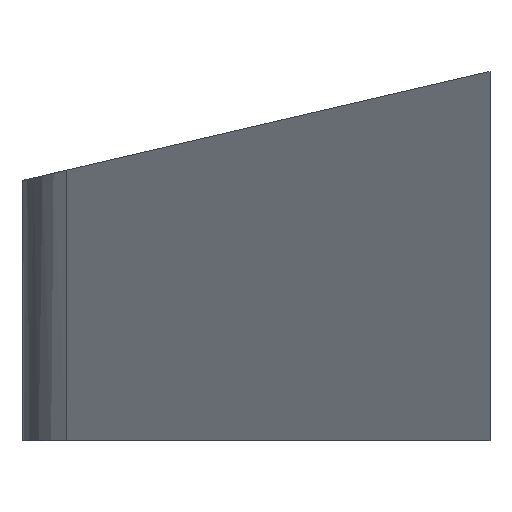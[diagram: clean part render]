
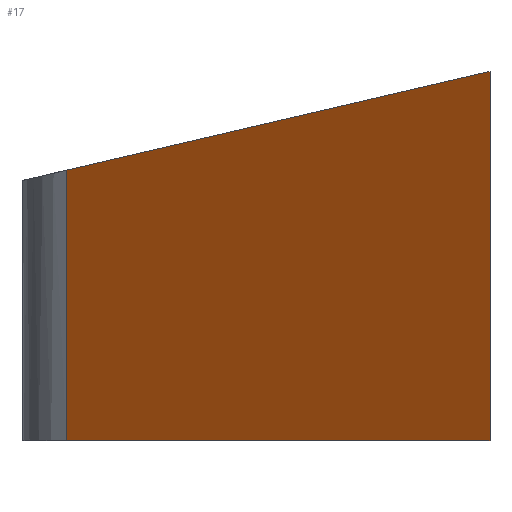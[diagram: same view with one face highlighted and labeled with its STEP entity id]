
A CAD part, front view. The second image highlights one B-rep face of the part: STEP entity #17.
In plain terms, the highlighted planar face has unit normal (-0.643, -0.766, 0).
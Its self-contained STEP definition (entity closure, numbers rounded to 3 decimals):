
#17 = ADVANCED_FACE('',(#18),#32,.F.);
#18 = FACE_BOUND('',#19,.F.);
#19 = EDGE_LOOP('',(#20,#55,#83,#109));
#20 = ORIENTED_EDGE('',*,*,#21,.F.);
#21 = EDGE_CURVE('',#22,#24,#26,.T.);
#22 = VERTEX_POINT('',#23);
#23 = CARTESIAN_POINT('',(-18.857,-10.12,-150.5));
#24 = VERTEX_POINT('',#25);
#25 = CARTESIAN_POINT('',(-17.5,-11.26,-150.5));
#26 = SURFACE_CURVE('',#27,(#31,#43),.PCURVE_S1.);
#27 = LINE('',#28,#29);
#28 = CARTESIAN_POINT('',(-19.,-10.,-150.5));
#29 = VECTOR('',#30,1.);
#30 = DIRECTION('',(0.766,-0.643,0.));
#31 = PCURVE('',#32,#37);
#32 = PLANE('',#33);
#33 = AXIS2_PLACEMENT_3D('',#34,#35,#36);
#34 = CARTESIAN_POINT('',(-19.,-10.,-150.5));
#35 = DIRECTION('',(0.643,0.766,-0.));
#36 = DIRECTION('',(0.766,-0.643,0.));
#37 = DEFINITIONAL_REPRESENTATION('',(#38),#42);
#38 = LINE('',#39,#40);
#39 = CARTESIAN_POINT('',(0.,0.));
#40 = VECTOR('',#41,1.);
#41 = DIRECTION('',(1.,0.));
#42 = ( GEOMETRIC_REPRESENTATION_CONTEXT(2) 
PARAMETRIC_REPRESENTATION_CONTEXT() REPRESENTATION_CONTEXT('2D SPACE',''
  ) );
#43 = PCURVE('',#44,#49);
#44 = PLANE('',#45);
#45 = AXIS2_PLACEMENT_3D('',#46,#47,#48);
#46 = CARTESIAN_POINT('',(-8.351,0.,-150.5));
#47 = DIRECTION('',(0.,0.,1.));
#48 = DIRECTION('',(1.,0.,-0.));
#49 = DEFINITIONAL_REPRESENTATION('',(#50),#54);
#50 = LINE('',#51,#52);
#51 = CARTESIAN_POINT('',(-10.649,-10.));
#52 = VECTOR('',#53,1.);
#53 = DIRECTION('',(0.766,-0.643));
#54 = ( GEOMETRIC_REPRESENTATION_CONTEXT(2) 
PARAMETRIC_REPRESENTATION_CONTEXT() REPRESENTATION_CONTEXT('2D SPACE',''
  ) );
#55 = ORIENTED_EDGE('',*,*,#56,.T.);
#56 = EDGE_CURVE('',#22,#57,#59,.T.);
#57 = VERTEX_POINT('',#58);
#58 = CARTESIAN_POINT('',(-18.857,-10.12,-149.633
    ));
#59 = SURFACE_CURVE('',#60,(#64,#71),.PCURVE_S1.);
#60 = LINE('',#61,#62);
#61 = CARTESIAN_POINT('',(-18.857,-10.12,-150.5));
#62 = VECTOR('',#63,1.);
#63 = DIRECTION('',(0.,0.,1.));
#64 = PCURVE('',#32,#65);
#65 = DEFINITIONAL_REPRESENTATION('',(#66),#70);
#66 = LINE('',#67,#68);
#67 = CARTESIAN_POINT('',(0.186,0.));
#68 = VECTOR('',#69,1.);
#69 = DIRECTION('',(0.,-1.));
#70 = ( GEOMETRIC_REPRESENTATION_CONTEXT(2) 
PARAMETRIC_REPRESENTATION_CONTEXT() REPRESENTATION_CONTEXT('2D SPACE',''
  ) );
#71 = PCURVE('',#72,#77);
#72 = CYLINDRICAL_SURFACE('',#73,0.4);
#73 = AXIS2_PLACEMENT_3D('',#74,#75,#76);
#74 = CARTESIAN_POINT('',(-18.6,-9.814,-150.5));
#75 = DIRECTION('',(0.,0.,1.));
#76 = DIRECTION('',(-0.643,-0.766,0.));
#77 = DEFINITIONAL_REPRESENTATION('',(#78),#82);
#78 = LINE('',#79,#80);
#79 = CARTESIAN_POINT('',(-0.,0.));
#80 = VECTOR('',#81,1.);
#81 = DIRECTION('',(-0.,1.));
#82 = ( GEOMETRIC_REPRESENTATION_CONTEXT(2) 
PARAMETRIC_REPRESENTATION_CONTEXT() REPRESENTATION_CONTEXT('2D SPACE',''
  ) );
#83 = ORIENTED_EDGE('',*,*,#84,.T.);
#84 = EDGE_CURVE('',#57,#85,#87,.T.);
#85 = VERTEX_POINT('',#86);
#86 = CARTESIAN_POINT('',(-17.5,-11.26,-149.317));
#87 = SURFACE_CURVE('',#88,(#92,#98),.PCURVE_S1.);
#88 = LINE('',#89,#90);
#89 = CARTESIAN_POINT('',(-21.741,-7.698,
    -150.306));
#90 = VECTOR('',#91,1.);
#91 = DIRECTION('',(0.754,-0.633,0.176));
#92 = PCURVE('',#32,#93);
#93 = DEFINITIONAL_REPRESENTATION('',(#94),#97);
#94 = B_SPLINE_CURVE_WITH_KNOTS('',1,(#95,#96),.UNSPECIFIED.,.F.,.F.,(2,
    2),(3.826,10.269),.PIECEWISE_BEZIER_KNOTS.);
#95 = CARTESIAN_POINT('',(0.186,-0.867));
#96 = CARTESIAN_POINT('',(6.53,-2.));
#97 = ( GEOMETRIC_REPRESENTATION_CONTEXT(2) 
PARAMETRIC_REPRESENTATION_CONTEXT() REPRESENTATION_CONTEXT('2D SPACE',''
  ) );
#98 = PCURVE('',#99,#104);
#99 = PLANE('',#100);
#100 = AXIS2_PLACEMENT_3D('',#101,#102,#103);
#101 = CARTESIAN_POINT('',(-20.,0.,-149.9));
#102 = DIRECTION('',(-0.227,0.,0.974));
#103 = DIRECTION('',(0.974,0.,0.227));
#104 = DEFINITIONAL_REPRESENTATION('',(#105),#108);
#105 = B_SPLINE_CURVE_WITH_KNOTS('',1,(#106,#107),.UNSPECIFIED.,.F.,.F.,
  (2,2),(3.826,10.269),.PIECEWISE_BEZIER_KNOTS.);
#106 = CARTESIAN_POINT('',(1.173,-10.12));
#107 = CARTESIAN_POINT('',(6.161,-14.2));
#108 = ( GEOMETRIC_REPRESENTATION_CONTEXT(2) 
PARAMETRIC_REPRESENTATION_CONTEXT() REPRESENTATION_CONTEXT('2D SPACE',''
  ) );
#109 = ORIENTED_EDGE('',*,*,#110,.T.);
#110 = EDGE_CURVE('',#85,#24,#111,.T.);
#111 = SURFACE_CURVE('',#112,(#116,#122),.PCURVE_S1.);
#112 = LINE('',#113,#114);
#113 = CARTESIAN_POINT('',(-17.5,-11.26,-151.));
#114 = VECTOR('',#115,1.);
#115 = DIRECTION('',(0.,-0.,-1.));
#116 = PCURVE('',#32,#117);
#117 = DEFINITIONAL_REPRESENTATION('',(#118),#121);
#118 = B_SPLINE_CURVE_WITH_KNOTS('',1,(#119,#120),.UNSPECIFIED.,.F.,.F.,
  (2,2),(-2.5,-0.5),.PIECEWISE_BEZIER_KNOTS.);
#119 = CARTESIAN_POINT('',(1.959,-2.));
#120 = CARTESIAN_POINT('',(1.959,0.));
#121 = ( GEOMETRIC_REPRESENTATION_CONTEXT(2) 
PARAMETRIC_REPRESENTATION_CONTEXT() REPRESENTATION_CONTEXT('2D SPACE',''
  ) );
#122 = PCURVE('',#123,#128);
#123 = PLANE('',#124);
#124 = AXIS2_PLACEMENT_3D('',#125,#126,#127);
#125 = CARTESIAN_POINT('',(-17.5,-40.,-151.5));
#126 = DIRECTION('',(1.,0.,0.));
#127 = DIRECTION('',(0.,0.,1.));
#128 = DEFINITIONAL_REPRESENTATION('',(#129),#132);
#129 = B_SPLINE_CURVE_WITH_KNOTS('',1,(#130,#131),.UNSPECIFIED.,.F.,.F.,
  (2,2),(-2.5,-0.5),.PIECEWISE_BEZIER_KNOTS.);
#130 = CARTESIAN_POINT('',(3.,-28.74));
#131 = CARTESIAN_POINT('',(1.,-28.74));
#132 = ( GEOMETRIC_REPRESENTATION_CONTEXT(2) 
PARAMETRIC_REPRESENTATION_CONTEXT() REPRESENTATION_CONTEXT('2D SPACE',''
  ) );
